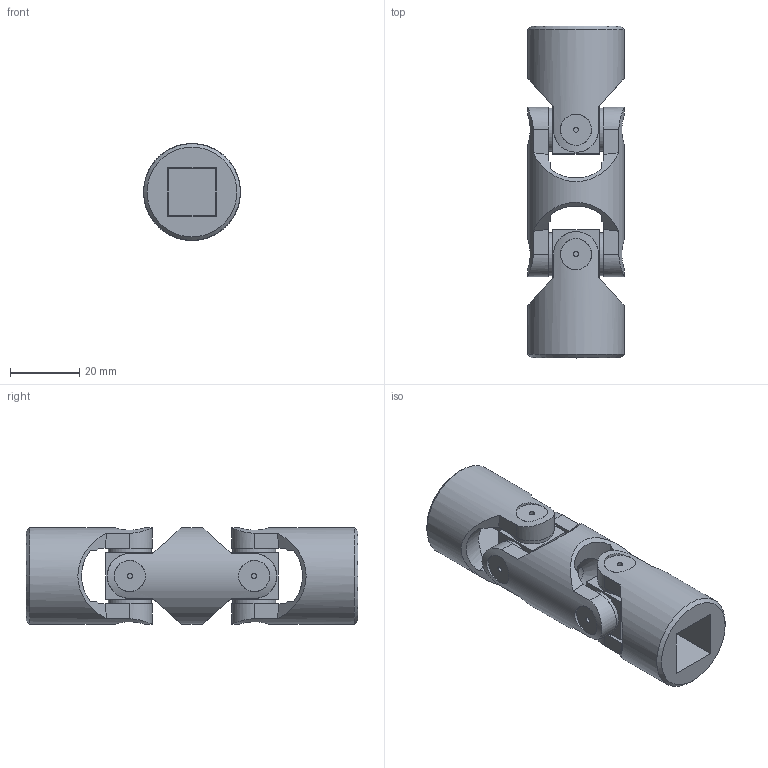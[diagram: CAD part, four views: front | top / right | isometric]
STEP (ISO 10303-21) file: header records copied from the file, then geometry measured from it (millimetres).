
FILE_DESCRIPTION(/* description */ (''),/* implementation_level */ '2;1');
FILE_NAME(/* name */ '\\SRV2016\Societa\Stefano\Disegni 3D\00Catalogo 3D\02Doppi GD-GBD\SG0D142Q.stp',/* time_stamp */ '2021-11-22T17:08:49+01:00',/* author */ ('acquisti'),/* organization */ (''),/* preprocessor_version */ 'ST-DEVELOPER v15.6',/* originating_system */ 'Autodesk Inventor 2015',/* authorisation */ '');
FILE_SCHEMA (('AUTOMOTIVE_DESIGN { 1 0 10303 214 3 1 1 }'));
Length unit declared in the file: millimetre
Products named in the file (4): 05G MOD; 05G SFE; 05G MOQ; Ø22_05GD-00_SG0D1400
Assembly tree (5 placements, depth 2):
  Ø22_05GD-00_SG0D1400
    05G MOD
    05G SFE  x2
    05G MOQ  x2
Bounding box: 28 x 96 x 28 mm (x, y, z)
Volume: 36204.2 mm3; surface area: 16569.5 mm2
Topology: 5 solids, 5 shells, 155 faces, 389 edges, 264 vertices
Faces by surface type: plane 78, cylinder 45, cone 28, torus 4
Full cylindrical faces by diameter (mm): 1.5 x8, 9 x8, 12.5 x8, 14.5 x2, 28 x3
Entity records: 3576 total; most frequent: CARTESIAN_POINT 1263, ORIENTED_EDGE 452, DIRECTION 438, EDGE_CURVE 226, AXIS2_PLACEMENT_3D 187, VERTEX_POINT 168, EDGE_LOOP 146, FACE_OUTER_BOUND 103
